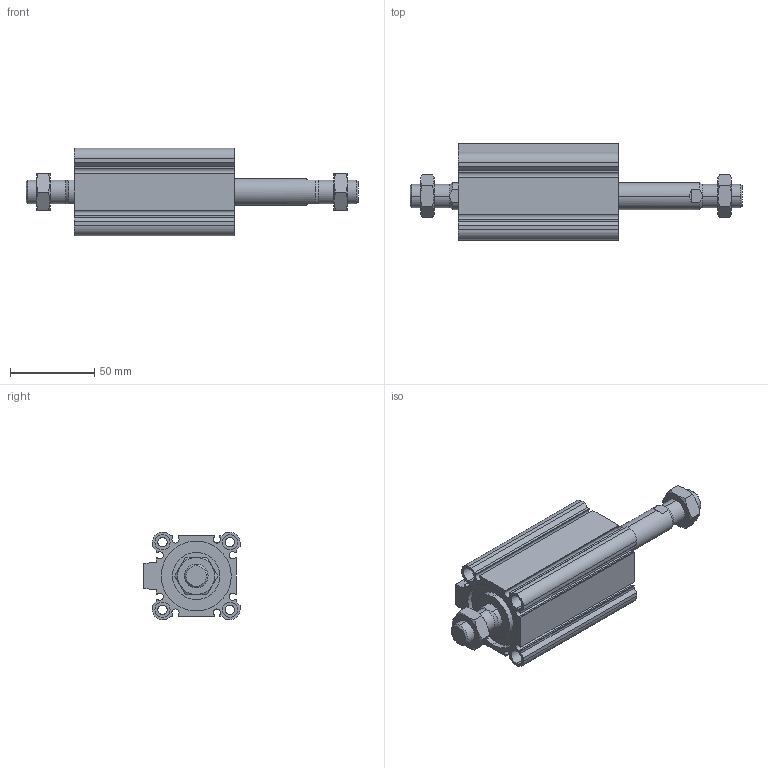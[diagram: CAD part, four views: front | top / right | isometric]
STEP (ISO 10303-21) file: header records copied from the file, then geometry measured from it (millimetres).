
FILE_DESCRIPTION (( 'STEP AP203' ), '1' );
FILE_NAME ('CCMB40-45M-P.STEP', '2020-08-10T11:40:17', ( '' ), ( '' ), 'SwSTEP 2.0', 'SolidWorks 2019', '' );
FILE_SCHEMA (( 'CONFIG_CONTROL_DESIGN' ));
Length unit declared in the file: millimetre
Products named in the file (1): CCMB40-45M-P
Bounding box: 197 x 57 x 52 mm (x, y, z)
Volume: 184372.6 mm3; surface area: 69763.7 mm2
Topology: 4 solids, 4 shells, 216 faces, 522 edges, 332 vertices
Faces by surface type: plane 94, cylinder 78, cone 44
Entity records: 7009 total; most frequent: CARTESIAN_POINT 1819, DIRECTION 1088, ORIENTED_EDGE 1044, EDGE_CURVE 522, AXIS2_PLACEMENT_3D 413, VERTEX_POINT 332, VECTOR 262, LINE 262
